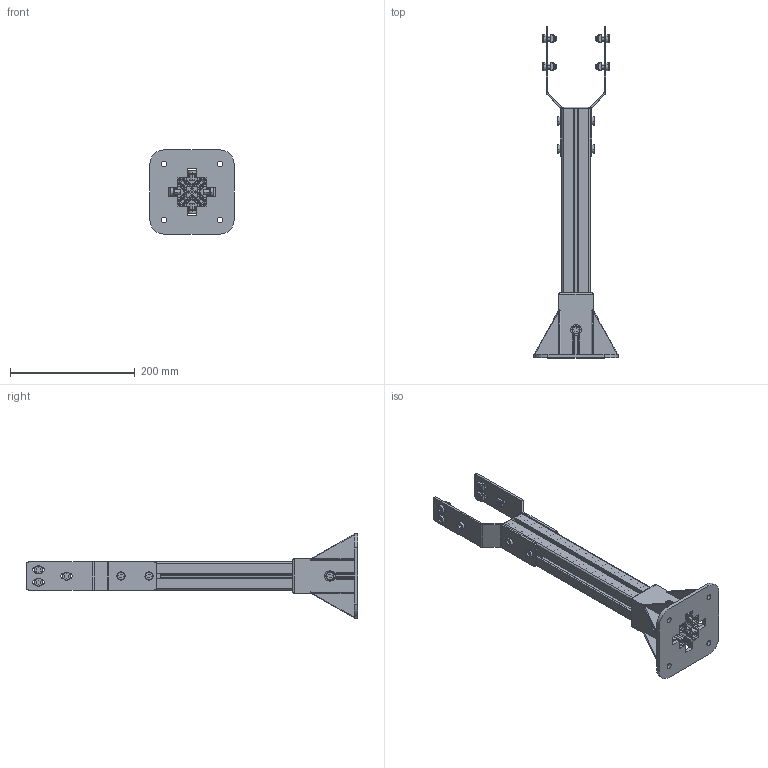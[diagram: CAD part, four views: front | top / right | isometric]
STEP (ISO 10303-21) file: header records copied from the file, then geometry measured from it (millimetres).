
FILE_DESCRIPTION (( 'STEP AP203' ), '1' );
FILE_NAME ('2000.325.KB.STEP', '2018-03-13T10:30:05', ( '' ), ( '' ), 'SwSTEP 2.0', 'SolidWorks 2016', '' );
FILE_SCHEMA (( 'CONFIG_CONTROL_DESIGN' ));
Length unit declared in the file: millimetre
Products named in the file (12): 2000.325.KB; 084.201.012-1; 084.302.000 DADI ALUSIC 13x13-1_084.302.004; 084.000.A025_SENZA COPERTURA; 084.409.002; 2000.325.620; 084.301.000 VITI ALUSIC_084.301.002; 2000.325.KB.XXXX.PROFILO_Default<A macchina>; RONDELLE UNI 6592_8.4x17 UNI 6592; 084.302.000 DADI ALUSIC 13x13-1_084.302.009; 084.302.016; 084.301.000 VITI ALUSIC1_084.301.003
Assembly tree (37 placements, depth 3):
  2000.325.KB
    2000.325.KB.XXXX.PROFILO_Default<A macchina>
    2000.325.620  x3
    084.201.012-1
    084.302.016  x2
    084.301.000 VITI ALUSIC_084.301.002  x10
    084.302.000 DADI ALUSIC 13x13-1_084.302.004  x6
    084.000.A025_SENZA COPERTURA
      084.409.002
      RONDELLE UNI 6592_8.4x17 UNI 6592  x4
      084.301.000 VITI ALUSIC1_084.301.003  x4
      084.302.000 DADI ALUSIC 13x13-1_084.302.009  x4
Bounding box: 135 x 533 x 135 mm (x, y, z)
Volume: 563976.2 mm3; surface area: 420017.7 mm2
Topology: 40 solids, 40 shells, 1041 faces, 2579 edges, 1642 vertices
Faces by surface type: plane 521, cylinder 324, torus 88, cone 56, bspline 48, sphere 4
Entity records: 18067 total; most frequent: CARTESIAN_POINT 3627, ORIENTED_EDGE 2630, DIRECTION 2567, EDGE_CURVE 1315, AXIS2_PLACEMENT_3D 866, VERTEX_POINT 840, LINE 835, VECTOR 835
